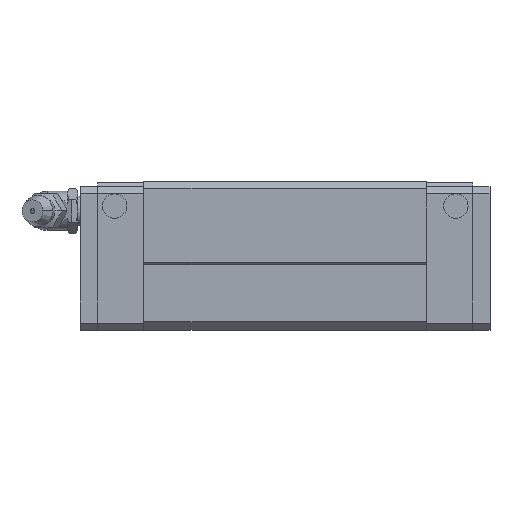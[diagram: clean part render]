
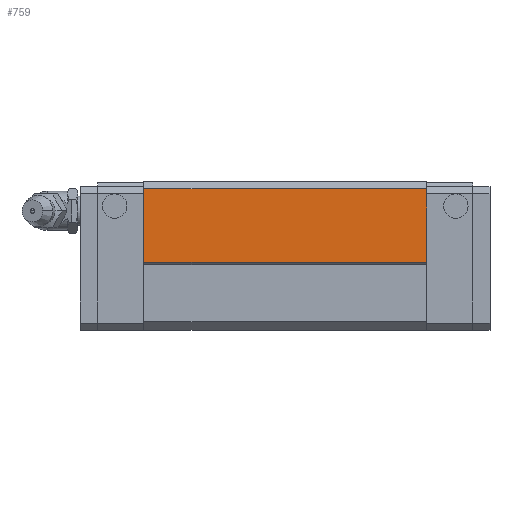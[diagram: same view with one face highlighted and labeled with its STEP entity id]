
A CAD part, front view. The second image highlights one B-rep face of the part: STEP entity #759.
In plain terms, the highlighted planar face has unit normal (0, -1, 0).
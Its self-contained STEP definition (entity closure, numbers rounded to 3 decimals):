
#698=CARTESIAN_POINT('POINT44',(71.,-24.,
   14.));
#699=VERTEX_POINT('VERTEX44',#698);
#706=CARTESIAN_POINT('POINT45',(13.,-24.,
   14.));
#707=VERTEX_POINT('VERTEX45',#706);
#708=CARTESIAN_POINT('POS73',(13.,-24.,
   14.));
#709=DIRECTION('DIR108',(1.,0.,0.));
#710=VECTOR('VEC38',#709,1.);
#711=LINE('STRAIGHT38',#708,#710);
#712=EDGE_CURVE('EDGE70',#707,#699,#711,.T.);
#729=CARTESIAN_POINT('POINT46',(71.,-24.,
   29.));
#730=VERTEX_POINT('VERTEX46',#729);
#731=CARTESIAN_POINT('POS76',(71.,-24.,
   29.));
#732=DIRECTION('DIR112',(0.,0.,1.));
#733=VECTOR('VEC40',#732,1.);
#734=LINE('STRAIGHT40',#731,#733);
#735=EDGE_CURVE('EDGE72',#699,#730,#734,.T.);
#736=ORIENTED_EDGE('COEDGE127',*,*,#735,.T.);
#737=CARTESIAN_POINT('POINT47',(13.,-24.,
   29.));
#738=VERTEX_POINT('VERTEX47',#737);
#739=CARTESIAN_POINT('POS77',(13.,-24.,
   29.));
#740=DIRECTION('DIR113',(1.,0.,0.));
#741=VECTOR('VEC41',#740,1.);
#742=LINE('STRAIGHT41',#739,#741);
#743=EDGE_CURVE('EDGE73',#738,#730,#742,.T.);
#744=ORIENTED_EDGE('COEDGE128',*,*,#743,.F.);
#745=CARTESIAN_POINT('POS78',(13.,-24.,
   29.));
#746=DIRECTION('DIR114',(0.,0.,-1.));
#747=VECTOR('VEC42',#746,1.);
#748=LINE('STRAIGHT42',#745,#747);
#749=EDGE_CURVE('EDGE74',#738,#707,#748,.T.);
#750=ORIENTED_EDGE('COEDGE129',*,*,#749,.T.);
#751=ORIENTED_EDGE('COEDGE130',*,*,#712,.T.);
#752=EDGE_LOOP('NONE',(#736,#744,#750,#751));
#753=FACE_BOUND('LOOP1',#752,.T.);
#754=CARTESIAN_POINT('POS79',(13.,-24.,
   14.));
#755=DIRECTION('DIR115',(0.,-1.,0.));
#756=DIRECTION('DIR116',(1.,0.,0.));
#757=AXIS2_PLACEMENT_3D('AXIS37',#754,#755,#756);
#758=PLANE('PLANE8',#757);
#759=ADVANCED_FACE('FACE34',(#753),#758,.T.);
